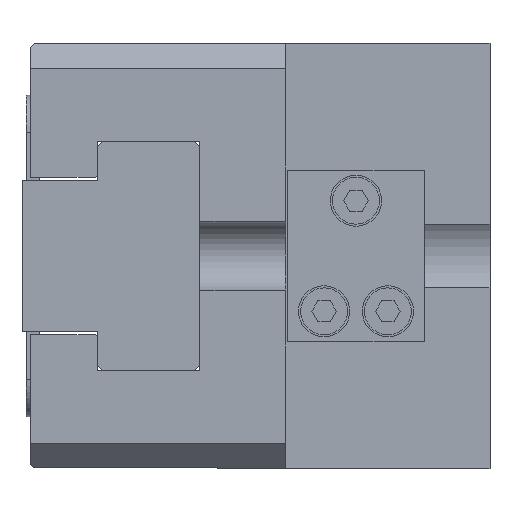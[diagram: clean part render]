
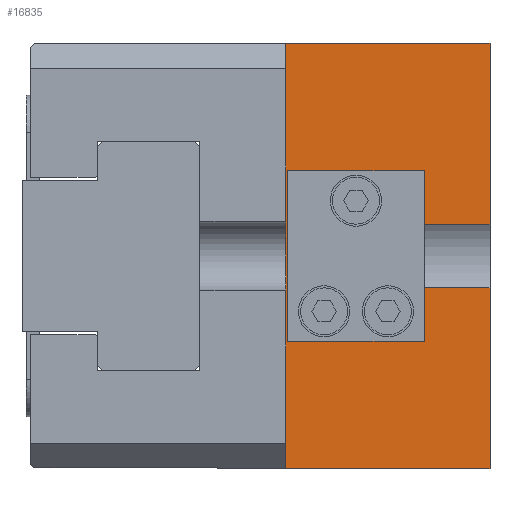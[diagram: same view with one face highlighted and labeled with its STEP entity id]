
A CAD part, left-side view. The second image highlights one B-rep face of the part: STEP entity #16835.
In plain terms, the highlighted planar face has unit normal (-1, 0, 0).
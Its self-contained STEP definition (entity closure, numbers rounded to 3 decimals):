
#182 = CARTESIAN_POINT ( 'NONE',  ( -40.5, 19.5, -6.5 ) ) ;
#453 = DIRECTION ( 'NONE',  ( 0., 0., 1. ) ) ;
#509 = DIRECTION ( 'NONE',  ( 0., 0., 1. ) ) ;
#511 = CARTESIAN_POINT ( 'NONE',  ( -40.5, 7.75, 25. ) ) ;
#739 = ORIENTED_EDGE ( 'NONE', *, *, #11224, .T. ) ;
#885 = EDGE_CURVE ( 'NONE', #3968, #4185, #10334, .T. ) ;
#1813 = EDGE_CURVE ( 'NONE', #3639, #4185, #7249, .T. ) ;
#2157 = CARTESIAN_POINT ( 'NONE',  ( -40.5, 24., 25. ) ) ;
#2292 = CARTESIAN_POINT ( 'NONE',  ( -40.5, 12., -5.271 ) ) ;
#2659 = LINE ( 'NONE', #3452, #10152 ) ;
#3145 = FACE_BOUND ( 'NONE', #14163, .T. ) ;
#3229 = DIRECTION ( 'NONE',  ( 0., 0., 1. ) ) ;
#3322 = VECTOR ( 'NONE', #7825, 1000. ) ;
#3337 = DIRECTION ( 'NONE',  ( 0., 0., 1. ) ) ;
#3353 = EDGE_CURVE ( 'NONE', #10270, #4605, #15721, .T. ) ;
#3363 = DIRECTION ( 'NONE',  ( 1., 0., 0. ) ) ;
#3407 = CARTESIAN_POINT ( 'NONE',  ( -40.5, 19.5, -5.271 ) ) ;
#3451 = ORIENTED_EDGE ( 'NONE', *, *, #3581, .T. ) ;
#3452 = CARTESIAN_POINT ( 'NONE',  ( -40.5, 0., 25. ) ) ;
#3471 = CARTESIAN_POINT ( 'NONE',  ( -40.5, 24., 25. ) ) ;
#3478 = DIRECTION ( 'NONE',  ( 0., 0., 1. ) ) ;
#3548 = CARTESIAN_POINT ( 'NONE',  ( -40.5, 0., 25. ) ) ;
#3581 = EDGE_CURVE ( 'NONE', #6783, #4467, #4095, .T. ) ;
#3639 = VERTEX_POINT ( 'NONE', #7139 ) ;
#3657 = ORIENTED_EDGE ( 'NONE', *, *, #1813, .F. ) ;
#3673 = AXIS2_PLACEMENT_3D ( 'NONE', #12783, #3363, #12611 ) ;
#3757 = DIRECTION ( 'NONE',  ( 0., 0., 1. ) ) ;
#3925 = CARTESIAN_POINT ( 'NONE',  ( -40.5, 0., 25. ) ) ;
#3950 = AXIS2_PLACEMENT_3D ( 'NONE', #182, #14981, #453 ) ;
#3968 = VERTEX_POINT ( 'NONE', #3925 ) ;
#4095 = CIRCLE ( 'NONE', #13263, 1.229 ) ;
#4133 = ORIENTED_EDGE ( 'NONE', *, *, #3353, .T. ) ;
#4185 = VERTEX_POINT ( 'NONE', #2157 ) ;
#4348 = EDGE_CURVE ( 'NONE', #11142, #14229, #7322, .T. ) ;
#4467 = VERTEX_POINT ( 'NONE', #2292 ) ;
#4605 = VERTEX_POINT ( 'NONE', #3407 ) ;
#4897 = CARTESIAN_POINT ( 'NONE',  ( -40.5, 7.75, -3.75 ) ) ;
#5102 = DIRECTION ( 'NONE',  ( -1., 0., 0. ) ) ;
#5247 = AXIS2_PLACEMENT_3D ( 'NONE', #10787, #5102, #3757 ) ;
#5286 = EDGE_CURVE ( 'NONE', #14229, #6864, #10828, .T. ) ;
#5522 = CARTESIAN_POINT ( 'NONE',  ( -40.5, 19.5, -7.73 ) ) ;
#5550 = EDGE_CURVE ( 'NONE', #6864, #3968, #2659, .T. ) ;
#5737 = VECTOR ( 'NONE', #15176, 1000. ) ;
#5751 = CARTESIAN_POINT ( 'NONE',  ( -40.5, 0., -3.75 ) ) ;
#5978 = EDGE_CURVE ( 'NONE', #14694, #11142, #16779, .T. ) ;
#6130 = LINE ( 'NONE', #3548, #16978 ) ;
#6783 = VERTEX_POINT ( 'NONE', #9997 ) ;
#6801 = VECTOR ( 'NONE', #3337, 1000. ) ;
#6864 = VERTEX_POINT ( 'NONE', #7477 ) ;
#7044 = EDGE_CURVE ( 'NONE', #4467, #6783, #8752, .T. ) ;
#7139 = CARTESIAN_POINT ( 'NONE',  ( -40.5, 24., -25. ) ) ;
#7249 = LINE ( 'NONE', #3471, #6801 ) ;
#7322 = LINE ( 'NONE', #511, #17649 ) ;
#7477 = CARTESIAN_POINT ( 'NONE',  ( -40.5, 0., 3.75 ) ) ;
#7568 = CARTESIAN_POINT ( 'NONE',  ( -40.5, 0., 3.75 ) ) ;
#7611 = CARTESIAN_POINT ( 'NONE',  ( -40.5, 7.75, 3.75 ) ) ;
#7825 = DIRECTION ( 'NONE',  ( 0., -1., 0. ) ) ;
#7853 = ORIENTED_EDGE ( 'NONE', *, *, #5286, .T. ) ;
#8219 = ORIENTED_EDGE ( 'NONE', *, *, #885, .T. ) ;
#8398 = CARTESIAN_POINT ( 'NONE',  ( -40.5, 0., -25. ) ) ;
#8435 = DIRECTION ( 'NONE',  ( 0., 0., 1. ) ) ;
#8458 = DIRECTION ( 'NONE',  ( 1., 0., 0. ) ) ;
#8475 = CARTESIAN_POINT ( 'NONE',  ( -40.5, 12., -6.5 ) ) ;
#8752 = CIRCLE ( 'NONE', #3673, 1.229 ) ;
#8992 = AXIS2_PLACEMENT_3D ( 'NONE', #11339, #11314, #11296 ) ;
#8993 = ORIENTED_EDGE ( 'NONE', *, *, #5550, .T. ) ;
#9286 = EDGE_CURVE ( 'NONE', #4605, #10270, #13402, .T. ) ;
#9493 = LINE ( 'NONE', #8398, #5737 ) ;
#9949 = ORIENTED_EDGE ( 'NONE', *, *, #4348, .T. ) ;
#9997 = CARTESIAN_POINT ( 'NONE',  ( -40.5, 12., -7.73 ) ) ;
#10152 = VECTOR ( 'NONE', #3229, 1000. ) ;
#10270 = VERTEX_POINT ( 'NONE', #5522 ) ;
#10334 = LINE ( 'NONE', #14512, #13497 ) ;
#10635 = FACE_OUTER_BOUND ( 'NONE', #13645, .T. ) ;
#10787 = CARTESIAN_POINT ( 'NONE',  ( -40.5, 0., 25. ) ) ;
#10828 = LINE ( 'NONE', #7568, #3322 ) ;
#11142 = VERTEX_POINT ( 'NONE', #4897 ) ;
#11224 = EDGE_CURVE ( 'NONE', #13946, #14694, #6130, .T. ) ;
#11296 = DIRECTION ( 'NONE',  ( 0., 0., 1. ) ) ;
#11314 = DIRECTION ( 'NONE',  ( 1., 0., 0. ) ) ;
#11339 = CARTESIAN_POINT ( 'NONE',  ( -40.5, 19.5, -6.5 ) ) ;
#12162 = PLANE ( 'NONE',  #5247 ) ;
#12611 = DIRECTION ( 'NONE',  ( 0., 0., 1. ) ) ;
#12783 = CARTESIAN_POINT ( 'NONE',  ( -40.5, 12., -6.5 ) ) ;
#13263 = AXIS2_PLACEMENT_3D ( 'NONE', #8475, #8458, #8435 ) ;
#13321 = VECTOR ( 'NONE', #13459, 1000. ) ;
#13383 = ORIENTED_EDGE ( 'NONE', *, *, #17656, .T. ) ;
#13402 = CIRCLE ( 'NONE', #3950, 1.229 ) ;
#13459 = DIRECTION ( 'NONE',  ( 0., 1., 0. ) ) ;
#13497 = VECTOR ( 'NONE', #14271, 1000. ) ;
#13522 = CARTESIAN_POINT ( 'NONE',  ( -40.5, 0., -3.75 ) ) ;
#13645 = EDGE_LOOP ( 'NONE', ( #3657, #13383, #739, #17568, #9949, #7853, #8993, #8219 ) ) ;
#13797 = FACE_BOUND ( 'NONE', #14029, .T. ) ;
#13946 = VERTEX_POINT ( 'NONE', #14905 ) ;
#14029 = EDGE_LOOP ( 'NONE', ( #14707, #3451 ) ) ;
#14163 = EDGE_LOOP ( 'NONE', ( #17283, #4133 ) ) ;
#14229 = VERTEX_POINT ( 'NONE', #7611 ) ;
#14271 = DIRECTION ( 'NONE',  ( 0., 1., 0. ) ) ;
#14512 = CARTESIAN_POINT ( 'NONE',  ( -40.5, 54., 25. ) ) ;
#14694 = VERTEX_POINT ( 'NONE', #5751 ) ;
#14707 = ORIENTED_EDGE ( 'NONE', *, *, #7044, .T. ) ;
#14905 = CARTESIAN_POINT ( 'NONE',  ( -40.5, 0., -25. ) ) ;
#14981 = DIRECTION ( 'NONE',  ( 1., 0., 0. ) ) ;
#15176 = DIRECTION ( 'NONE',  ( 0., -1., 0. ) ) ;
#15721 = CIRCLE ( 'NONE', #8992, 1.229 ) ;
#16779 = LINE ( 'NONE', #13522, #13321 ) ;
#16835 = ADVANCED_FACE ( 'NONE', ( #10635, #13797, #3145 ), #12162, .T. ) ;
#16978 = VECTOR ( 'NONE', #3478, 1000. ) ;
#17283 = ORIENTED_EDGE ( 'NONE', *, *, #9286, .T. ) ;
#17568 = ORIENTED_EDGE ( 'NONE', *, *, #5978, .T. ) ;
#17649 = VECTOR ( 'NONE', #509, 1000. ) ;
#17656 = EDGE_CURVE ( 'NONE', #3639, #13946, #9493, .T. ) ;
